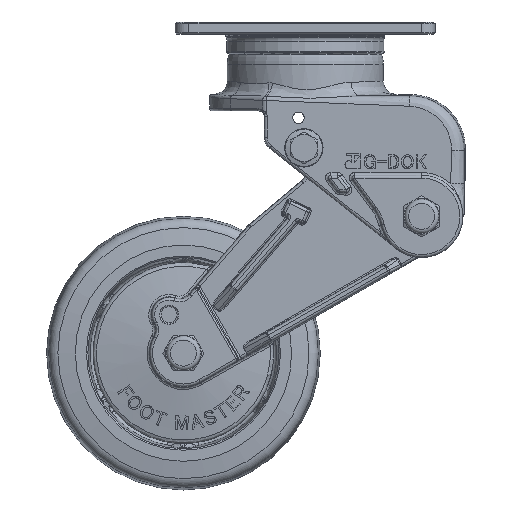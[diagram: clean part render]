
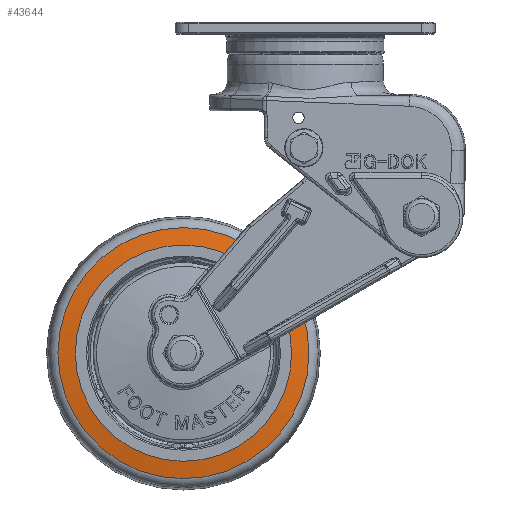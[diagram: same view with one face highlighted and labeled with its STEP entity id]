
A CAD part, front view. The second image highlights one B-rep face of the part: STEP entity #43644.
In plain terms, the highlighted conical face has half-angle 80.918 degrees and reference radius 42.694 mm.
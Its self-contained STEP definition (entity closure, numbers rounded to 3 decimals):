
#1456=CIRCLE('',#46221,45.873);
#1457=CIRCLE('',#46222,39.516);
#1458=CIRCLE('',#46223,45.873);
#3259=CONICAL_SURFACE('',#46220,42.694,1.412);
#6236=FACE_OUTER_BOUND('',#8871,.T.);
#8871=EDGE_LOOP('',(#28295,#28296,#28297,#28298,#28299));
#11926=LINE('',#63097,#14420);
#14420=VECTOR('',#51018,42.694);
#16887=VERTEX_POINT('',#63093);
#16888=VERTEX_POINT('',#63094);
#16889=VERTEX_POINT('',#63096);
#21184=EDGE_CURVE('',#16887,#16888,#1456,.T.);
#21185=EDGE_CURVE('',#16888,#16889,#11926,.T.);
#21186=EDGE_CURVE('',#16889,#16889,#1457,.T.);
#21187=EDGE_CURVE('',#16888,#16887,#1458,.T.);
#28295=ORIENTED_EDGE('',*,*,#21184,.T.);
#28296=ORIENTED_EDGE('',*,*,#21185,.T.);
#28297=ORIENTED_EDGE('',*,*,#21186,.T.);
#28298=ORIENTED_EDGE('',*,*,#21185,.F.);
#28299=ORIENTED_EDGE('',*,*,#21187,.T.);
#43644=ADVANCED_FACE('',(#6236),#3259,.T.);
#46220=AXIS2_PLACEMENT_3D('',#63092,#51014,#51015);
#46221=AXIS2_PLACEMENT_3D('',#63095,#51016,#51017);
#46222=AXIS2_PLACEMENT_3D('',#63098,#51019,#51020);
#46223=AXIS2_PLACEMENT_3D('',#63099,#51021,#51022);
#51014=DIRECTION('center_axis',(0.,1.,0.));
#51015=DIRECTION('ref_axis',(0.867,0.,0.498));
#51016=DIRECTION('center_axis',(0.,-1.,0.));
#51017=DIRECTION('ref_axis',(0.498,0.,-0.867));
#51018=DIRECTION('',(0.856,-0.158,0.492));
#51019=DIRECTION('center_axis',(0.,1.,0.));
#51020=DIRECTION('ref_axis',(0.867,0.,0.498));
#51021=DIRECTION('center_axis',(0.,-1.,0.));
#51022=DIRECTION('ref_axis',(0.498,0.,-0.867));
#63092=CARTESIAN_POINT('Origin',(-44.521,-14.492,-121.));
#63093=CARTESIAN_POINT('',(-67.374,-13.984,-81.225));
#63094=CARTESIAN_POINT('',(-84.295,-13.984,-143.853));
#63095=CARTESIAN_POINT('Origin',(-44.521,-13.984,-121.));
#63096=CARTESIAN_POINT('',(-78.784,-15.,-140.686));
#63097=CARTESIAN_POINT('',(-81.54,-14.492,-142.27));
#63098=CARTESIAN_POINT('Origin',(-44.521,-15.,-121.));
#63099=CARTESIAN_POINT('Origin',(-44.521,-13.984,-121.));
